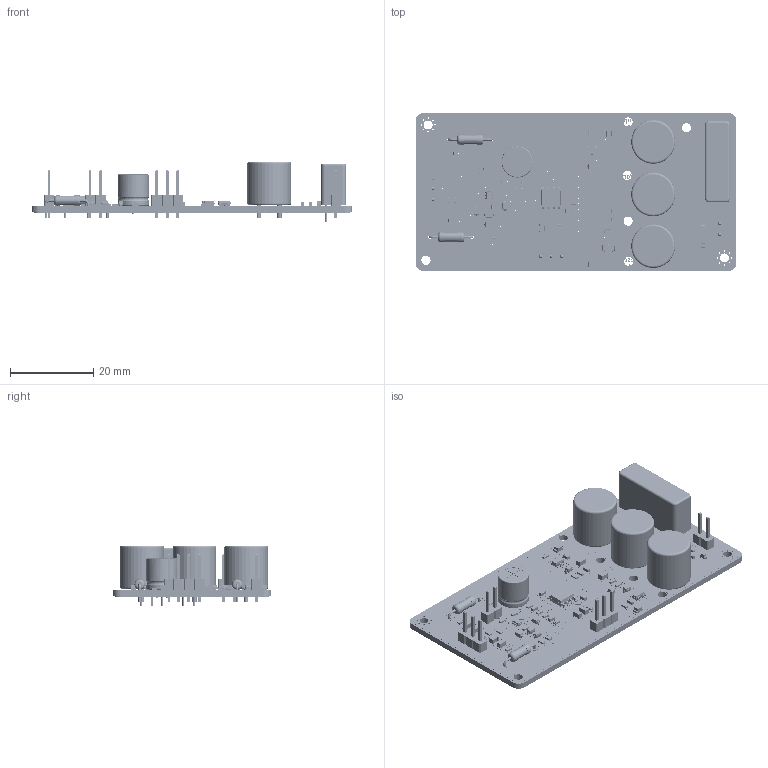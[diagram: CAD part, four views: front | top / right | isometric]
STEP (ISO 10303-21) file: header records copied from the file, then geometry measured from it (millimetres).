
FILE_DESCRIPTION(('KiCad electronic assembly'),'2;1');
FILE_NAME('Michelle4.0.step','2025-03-13T20:39:44',('Pcbnew'),('Kicad'), 'Open CASCADE STEP processor 7.9','KiCad to STEP converter','Unknown' );
FILE_SCHEMA(('AUTOMOTIVE_DESIGN { 1 0 10303 214 1 1 1 1 }'));
Length unit declared in the file: millimetre
Products named in the file (21): Michelle4.0 1; R_0603_1608Metric; C_0805_2012Metric; LED_0805_2012Metric; C_0603_1608Metric; PinHeader_1x03_P2.54mm_Vertical; L_Radial_D10.5mm_P5.00mm_Abacron_AISR-01; D_SOD-323; SOT-23; R_Axial_DIN0207_L6.3mm_D2.5mm_P10.16mm_Horizontal; PinHeader_1x02_P2.54mm_Vertical; Converter_DCDC_Murata_NMAxxxxSC_THT; SOT-363_SC-70-6; SOIC-8_3.9x4.9mm_P1.27mm; CP_Radial_D7.5mm_P2.50mm; LED_0603_1608Metric; Michelle4.0_copper; Michelle4.0_pad; Michelle4.0_via; Michelle4.0_silkscreen; Michelle4.0_PCB
Assembly tree (70 placements, depth 2):
  Michelle4.0 1
    R_0603_1608Metric  x23
    C_0805_2012Metric  x8
    LED_0805_2012Metric  x2
    C_0603_1608Metric  x10
    PinHeader_1x03_P2.54mm_Vertical  x2
    L_Radial_D10.5mm_P5.00mm_Abacron_AISR-01  x3
    D_SOD-323  x6
    SOT-23  x2
    R_Axial_DIN0207_L6.3mm_D2.5mm_P10.16mm_Horizontal  x2
    PinHeader_1x02_P2.54mm_Vertical  x2
    Converter_DCDC_Murata_NMAxxxxSC_THT
    SOT-363_SC-70-6
    SOIC-8_3.9x4.9mm_P1.27mm
    CP_Radial_D7.5mm_P2.50mm
    LED_0603_1608Metric
    Michelle4.0_copper
    Michelle4.0_pad
    Michelle4.0_via
    Michelle4.0_silkscreen
    Michelle4.0_PCB
Bounding box: 77 x 38 x 14.6 mm (x, y, z)
Volume: 9080.8 mm3; surface area: 21016.9 mm2
Topology: 427 solids, 1526 shells, 9715 faces, 56013 edges, 48340 vertices
Faces by surface type: plane 7202, cylinder 2208, bspline 276, torus 25, revolution 4
Full cylindrical faces by diameter (mm): 0.25 x41, 0.3 x164, 0.35 x80, 0.4 x64, 0.5 x7, 0.6 x17, 0.65 x15, 0.7 x44, 0.75 x18, 0.8 x12, 0.95 x30, 1 x30, 1.25 x18, 1.3 x16, 1.5 x8, 1.6 x10, 1.609 x6, 1.7 x12, 2.15 x6, 2.2 x14, 2.25 x2, 2.5 x4, 2.6 x12, 2.609 x4, 2.709 x13, 3.609 x4, 4.4 x4, 10.5 x3
Entity records: 520366 total; most frequent: CARTESIAN_POINT 106806, DIRECTION 74082, ORIENTED_EDGE 70187, EDGE_CURVE 51917, VERTEX_POINT 45732, LINE 45514, VECTOR 45514, AXIS2_PLACEMENT_3D 14282
